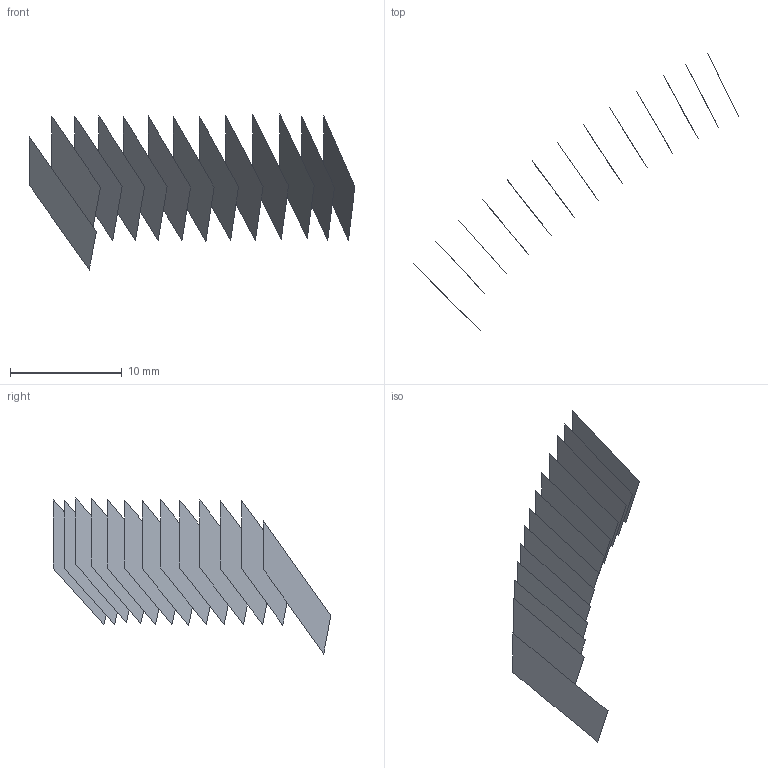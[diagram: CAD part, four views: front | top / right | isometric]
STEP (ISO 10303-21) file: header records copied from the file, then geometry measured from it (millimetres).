
FILE_DESCRIPTION(('FreeCAD Model'),'2;1');
FILE_NAME('Open CASCADE Shape Model','2022-05-21T09:28:00',('FreeCAD'),( 'FreeCAD'),'Open CASCADE STEP processor 7.5','FreeCAD','Unknown');
FILE_SCHEMA(('AUTOMOTIVE_DESIGN { 1 0 10303 214 1 1 1 1 }'));
Length unit declared in the file: millimetre
Products named in the file (14): Open CASCADE STEP translator 7.5 1; Open CASCADE STEP translator 7.5 1.1; Open CASCADE STEP translator 7.5 1.2; Open CASCADE STEP translator 7.5 1.3; Open CASCADE STEP translator 7.5 1.4; Open CASCADE STEP translator 7.5 1.5; Open CASCADE STEP translator 7.5 1.6; Open CASCADE STEP translator 7.5 1.7; Open CASCADE STEP translator 7.5 1.8; Open CASCADE STEP translator 7.5 1.9; Open CASCADE STEP translator 7.5 1.10; Open CASCADE STEP translator 7.5 1.11; Open CASCADE STEP translator 7.5 1.12; Open CASCADE STEP translator 7.5 1.13
Assembly tree (13 placements, depth 2):
  Open CASCADE STEP translator 7.5 1
    Open CASCADE STEP translator 7.5 1.1
    Open CASCADE STEP translator 7.5 1.2
    Open CASCADE STEP translator 7.5 1.3
    Open CASCADE STEP translator 7.5 1.4
    Open CASCADE STEP translator 7.5 1.5
    Open CASCADE STEP translator 7.5 1.6
    Open CASCADE STEP translator 7.5 1.7
    Open CASCADE STEP translator 7.5 1.8
    Open CASCADE STEP translator 7.5 1.9
    Open CASCADE STEP translator 7.5 1.10
    Open CASCADE STEP translator 7.5 1.11
    Open CASCADE STEP translator 7.5 1.12
    Open CASCADE STEP translator 7.5 1.13
Bounding box: 29.15 x 24.86 x 13.96 mm (x, y, z)
Surface area: 452.8 mm2 (no closed solid volume)
Topology: 0 solids, 13 shells, 13 faces, 112 edges, 112 vertices
Faces by surface type: bspline 13
Entity records: 1836 total; most frequent: CARTESIAN_POINT 626, B_SPLINE_CURVE_WITH_KNOTS 224, ORIENTED_EDGE 112, EDGE_CURVE 112, VERTEX_POINT 112, SURFACE_CURVE 112, PCURVE 112, DEFINITIONAL_REPRESENTATION 112
